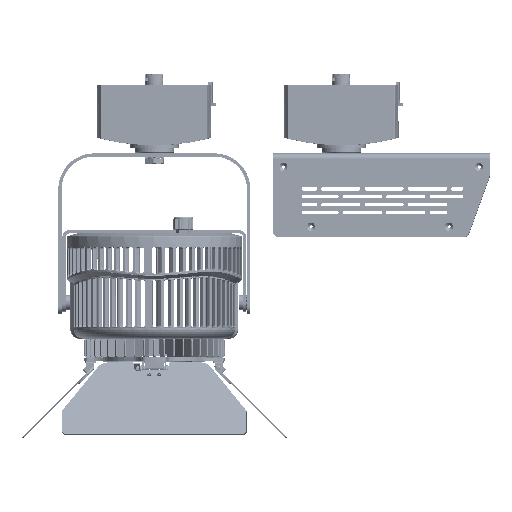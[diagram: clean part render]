
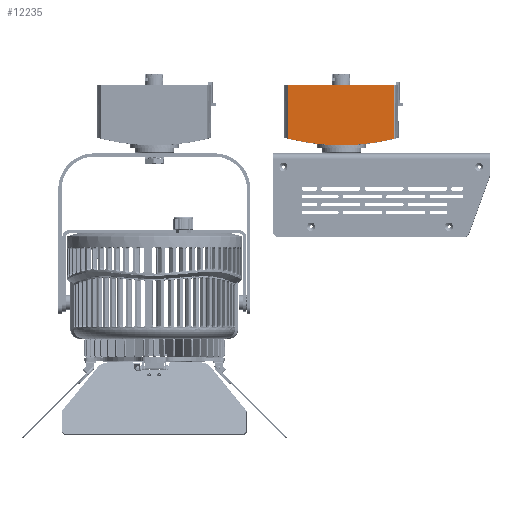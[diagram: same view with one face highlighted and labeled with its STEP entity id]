
A CAD part, top view. The second image highlights one B-rep face of the part: STEP entity #12235.
In plain terms, the highlighted planar face has unit normal (-0.003, 0, 1).
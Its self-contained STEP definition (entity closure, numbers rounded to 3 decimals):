
#1899 = ORIENTED_EDGE ( 'NONE', *, *, #215993, .T. ) ;
#2610 = CIRCLE ( 'NONE', #55575, 166.425 ) ;
#10920 = VERTEX_POINT ( 'NONE', #274165 ) ;
#12235 = ADVANCED_FACE ( 'NONE', ( #69868 ), #251149, .T. ) ;
#21598 = DIRECTION ( 'NONE',  ( 0., 0., 1. ) ) ;
#26253 = VERTEX_POINT ( 'NONE', #166574 ) ;
#28341 = CARTESIAN_POINT ( 'NONE',  ( 1.279, -25.41, 18.5 ) ) ;
#30313 = CARTESIAN_POINT ( 'NONE',  ( -0.16, -25.488, 18.5 ) ) ;
#31784 = CARTESIAN_POINT ( 'NONE',  ( -0.018, -25.499, 18.5 ) ) ;
#32196 = VERTEX_POINT ( 'NONE', #110224 ) ;
#33223 = CARTESIAN_POINT ( 'NONE',  ( -0.758, -25.444, 18.5 ) ) ;
#50994 = CARTESIAN_POINT ( 'NONE',  ( 0.639, -25.452, 18.5 ) ) ;
#52443 = CARTESIAN_POINT ( 'NONE',  ( 1.92, -25.389, 18.5 ) ) ;
#52891 = CARTESIAN_POINT ( 'NONE',  ( -1.025, -25.427, 18.5 ) ) ;
#55575 = AXIS2_PLACEMENT_3D ( 'NONE', #139487, #94168, #189231 ) ;
#55626 = EDGE_CURVE ( 'NONE', #26253, #292271, #2610, .T. ) ;
#58535 = LINE ( 'NONE', #217154, #66725 ) ;
#59807 = EDGE_CURVE ( 'NONE', #10920, #26253, #58535, .T. ) ;
#60437 = CIRCLE ( 'NONE', #277640, 166.425 ) ;
#63040 = AXIS2_PLACEMENT_3D ( 'NONE', #161968, #21598, #89526 ) ;
#63918 = DIRECTION ( 'NONE',  ( 0., 1., 0. ) ) ;
#66725 = VECTOR ( 'NONE', #150642, 1000. ) ;
#69868 = FACE_OUTER_BOUND ( 'NONE', #216134, .T. ) ;
#72965 = DIRECTION ( 'NONE',  ( -1., 0., 0. ) ) ;
#77032 = CARTESIAN_POINT ( 'NONE',  ( -0.027, -25.498, 18.5 ) ) ;
#78522 = CARTESIAN_POINT ( 'NONE',  ( -1.211, -25.415, 18.5 ) ) ;
#79679 = CARTESIAN_POINT ( 'NONE',  ( 40.428, -20.415, 18.5 ) ) ;
#79899 = VERTEX_POINT ( 'NONE', #103553 ) ;
#85804 = DIRECTION ( 'NONE',  ( 1., 0., 0. ) ) ;
#89526 = DIRECTION ( 'NONE',  ( 1., 0., 0. ) ) ;
#94168 = DIRECTION ( 'NONE',  ( 0., 0., 1. ) ) ;
#95615 = CARTESIAN_POINT ( 'NONE',  ( -40.5, 20.5, 18.5 ) ) ;
#97803 = CARTESIAN_POINT ( 'NONE',  ( 1.599, -25.393, 18.5 ) ) ;
#103553 = CARTESIAN_POINT ( 'NONE',  ( 0., -25.5, 18.5 ) ) ;
#104279 = VERTEX_POINT ( 'NONE', #79679 ) ;
#105985 = VERTEX_POINT ( 'NONE', #123884 ) ;
#110224 = CARTESIAN_POINT ( 'NONE',  ( 1.92, -25.389, 18.5 ) ) ;
#110315 = VECTOR ( 'NONE', #72965, 1000. ) ;
#120683 = ORIENTED_EDGE ( 'NONE', *, *, #158123, .T. ) ;
#122450 = CARTESIAN_POINT ( 'NONE',  ( -0.094, -25.493, 18.5 ) ) ;
#123884 = CARTESIAN_POINT ( 'NONE',  ( 40.428, 20.5, 18.5 ) ) ;
#123909 = CARTESIAN_POINT ( 'NONE',  ( -1.584, -25.398, 18.5 ) ) ;
#131237 = DIRECTION ( 'NONE',  ( 0., 0., 1. ) ) ;
#139487 = CARTESIAN_POINT ( 'NONE',  ( 0., 141.025, 18.5 ) ) ;
#145038 = CARTESIAN_POINT ( 'NONE',  ( -0.227, -25.483, 18.5 ) ) ;
#150642 = DIRECTION ( 'NONE',  ( 0., -1., 0. ) ) ;
#152502 = B_SPLINE_CURVE_WITH_KNOTS ( 'NONE', 3,
 ( #213042, #167653, #259877, #123909, #191801, #78522, #52891, #33223, #284025, #145038, #30313, #122450, #77032, #31784, #215984, #170643 ),
 .UNSPECIFIED., .F., .F.,
 ( 4, 3, 3, 3, 3, 4 ),
 ( 0., 0., 0.001, 0.002, 0.002, 0.002 ),
 .UNSPECIFIED. ) ;
#153004 = EDGE_CURVE ( 'NONE', #79899, #32196, #270283, .T. ) ;
#153488 = ORIENTED_EDGE ( 'NONE', *, *, #55626, .T. ) ;
#158123 = EDGE_CURVE ( 'NONE', #292271, #79899, #152502, .T. ) ;
#160360 = EDGE_CURVE ( 'NONE', #105985, #10920, #230145, .T. ) ;
#161968 = CARTESIAN_POINT ( 'NONE',  ( 0., 141.025, 18.5 ) ) ;
#163201 = ORIENTED_EDGE ( 'NONE', *, *, #153004, .T. ) ;
#166574 = CARTESIAN_POINT ( 'NONE',  ( -40.428, -20.415, 18.5 ) ) ;
#167653 = CARTESIAN_POINT ( 'NONE',  ( -1.808, -25.39, 18.5 ) ) ;
#170643 = CARTESIAN_POINT ( 'NONE',  ( 0., -25.5, 18.5 ) ) ;
#177882 = EDGE_CURVE ( 'NONE', #104279, #105985, #205835, .T. ) ;
#178701 = CARTESIAN_POINT ( 'NONE',  ( 40.428, 141.025, 18.5 ) ) ;
#189231 = DIRECTION ( 'NONE',  ( 1., 0., 0. ) ) ;
#191801 = CARTESIAN_POINT ( 'NONE',  ( -1.397, -25.405, 18.5 ) ) ;
#205835 = LINE ( 'NONE', #178701, #232213 ) ;
#213042 = CARTESIAN_POINT ( 'NONE',  ( -1.92, -25.389, 18.5 ) ) ;
#215224 = ORIENTED_EDGE ( 'NONE', *, *, #160360, .T. ) ;
#215984 = CARTESIAN_POINT ( 'NONE',  ( -0.009, -25.499, 18.5 ) ) ;
#215993 = EDGE_CURVE ( 'NONE', #32196, #104279, #60437, .T. ) ;
#216134 = EDGE_LOOP ( 'NONE', ( #215224, #236069, #153488, #120683, #163201, #1899, #226043 ) ) ;
#217154 = CARTESIAN_POINT ( 'NONE',  ( -40.428, -20.5, 18.5 ) ) ;
#226043 = ORIENTED_EDGE ( 'NONE', *, *, #177882, .T. ) ;
#230145 = LINE ( 'NONE', #95615, #110315 ) ;
#232213 = VECTOR ( 'NONE', #63918, 1000. ) ;
#236069 = ORIENTED_EDGE ( 'NONE', *, *, #59807, .T. ) ;
#248104 = CARTESIAN_POINT ( 'NONE',  ( -1.92, -25.389, 18.5 ) ) ;
#250433 = CARTESIAN_POINT ( 'NONE',  ( 0., 141.025, 18.5 ) ) ;
#251149 = PLANE ( 'NONE',  #63040 ) ;
#257933 = CARTESIAN_POINT ( 'NONE',  ( 0.32, -25.476, 18.5 ) ) ;
#259436 = CARTESIAN_POINT ( 'NONE',  ( 0., -25.5, 18.5 ) ) ;
#259877 = CARTESIAN_POINT ( 'NONE',  ( -1.696, -25.393, 18.5 ) ) ;
#270283 = B_SPLINE_CURVE_WITH_KNOTS ( 'NONE', 3,
 ( #259436, #257933, #50994, #28341, #97803, #52443 ),
 .UNSPECIFIED., .F., .F.,
 ( 4, 2, 4 ),
 ( 0., 0.001, 0.002 ),
 .UNSPECIFIED. ) ;
#274165 = CARTESIAN_POINT ( 'NONE',  ( -40.428, 20.5, 18.5 ) ) ;
#277640 = AXIS2_PLACEMENT_3D ( 'NONE', #250433, #131237, #85804 ) ;
#284025 = CARTESIAN_POINT ( 'NONE',  ( -0.492, -25.463, 18.5 ) ) ;
#292271 = VERTEX_POINT ( 'NONE', #248104 ) ;
